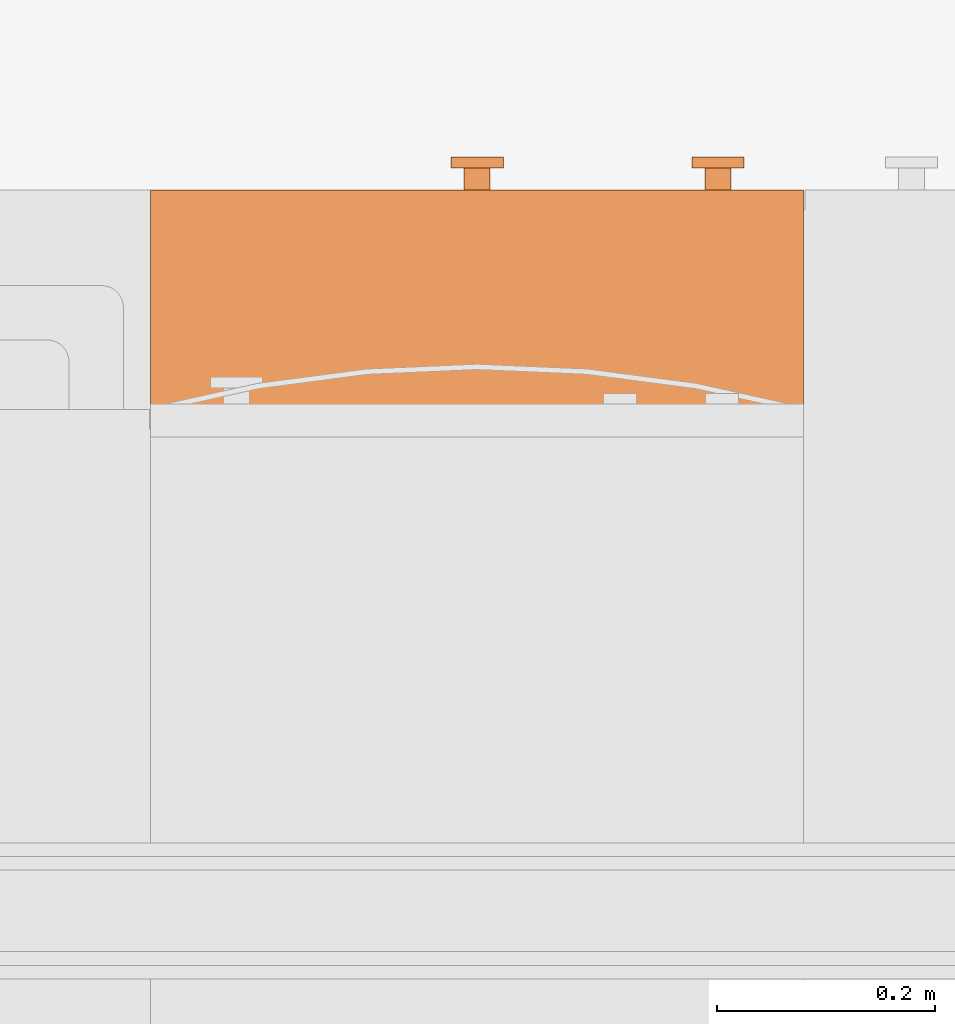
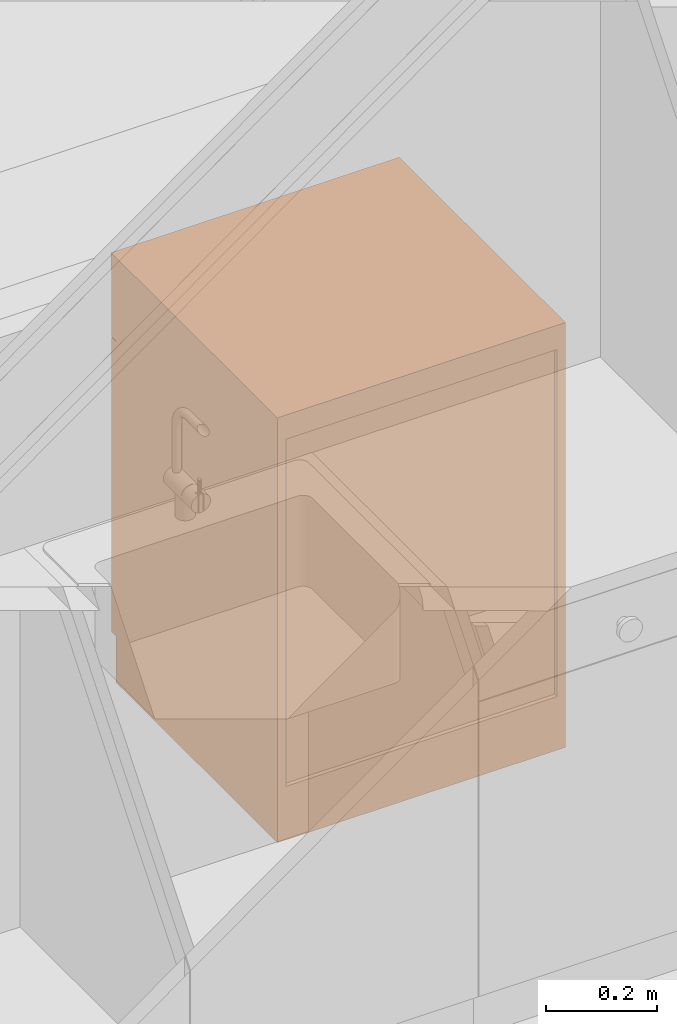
# One storey, part 150 of 165: 1 proxy.
"""IFC2X3 building model written with IfcOpenShell, lengths in millimetres."""

from ifc_helpers import new_model, entity, si_unit, converted_unit, derived_unit, money_unit, direction, frame, origin_with_axes, place, context, subcontext, project, spatial, faceted_brep, type_object, element, save


model = new_model("IFC2X3")

# Units and contexts
model_context = context("Model", 3, precision=0.01, world=origin_with_axes(), true_north=direction((0.0, 1.0)))
body_context = subcontext(model_context, "Body", "Model", "MODEL_VIEW")
ifc_project = project(units=[si_unit("LENGTHUNIT", "METRE", prefix="MILLI"), si_unit("AREAUNIT", "SQUARE_METRE"), si_unit("VOLUMEUNIT", "CUBIC_METRE"), converted_unit("PLANEANGLEUNIT", "DEGREE", entity("IfcPlaneAngleMeasure", 0.0174532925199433), si_unit("PLANEANGLEUNIT", "RADIAN"), dimensions=[0, 0, 0, 0, 0, 0, 0]), money_unit("EUR"), converted_unit("TIMEUNIT", "Year", entity("IfcTimeMeasure", 31556926.0), si_unit("TIMEUNIT", "SECOND"), dimensions=[0, 0, 1, 0, 0, 0, 0]), si_unit("MASSUNIT", "GRAM", prefix="KILO"), si_unit("THERMODYNAMICTEMPERATUREUNIT", "DEGREE_CELSIUS"), si_unit("LUMINOUSINTENSITYUNIT", "LUMEN"), si_unit("ENERGYUNIT", "JOULE", prefix="MEGA"), derived_unit("THERMALCONDUCTANCEUNIT", [(si_unit("POWERUNIT", "WATT"), 1), (si_unit("LENGTHUNIT", "METRE"), -1), (si_unit("THERMODYNAMICTEMPERATUREUNIT", "KELVIN"), -1)]), derived_unit("SPECIFICHEATCAPACITYUNIT", [(si_unit("ENERGYUNIT", "JOULE"), 1), (si_unit("MASSUNIT", "GRAM", prefix="KILO"), -1), (si_unit("THERMODYNAMICTEMPERATUREUNIT", "KELVIN"), -1)]), derived_unit("MASSDENSITYUNIT", [(si_unit("MASSUNIT", "GRAM", prefix="KILO"), 1), (si_unit("VOLUMEUNIT", "CUBIC_METRE"), -1)])], contexts=[model_context])

# Site, building, storey
site_placement = place(None, origin_with_axes())
site = spatial("IfcSite", under=ifc_project, at=site_placement, Name="Site", CompositionType="ELEMENT")
building_placement = place(site_placement, origin_with_axes())
building = spatial("IfcBuilding", under=site, at=building_placement, Name="Naam gebouw", CompositionType="ELEMENT")
storey_placement = place(building_placement, origin_with_axes())
storey = spatial("IfcBuildingStorey", under=building, at=storey_placement, Name="Begane grond", CompositionType="ELEMENT", Elevation=0.0)

# Proxy
building_element_proxy_type = type_object("IfcBuildingElementProxyType", Name="Onderkast recht 26", PredefinedType="NOTDEFINED")
proxy_placement = place(storey_placement, frame((2032.00057051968, 11432.52823100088, 0.0), z_axis=(0.0, 0.0, 1.0), x_axis=(-0.9999999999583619, 9.125581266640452e-06, 0.0)))
element("IfcBuildingElementProxy", 1, at=proxy_placement, inside=storey, type_object=building_element_proxy_type, Name="_Leeg", context=body_context, shape_type="Brep", body=[
    faceted_brep([(0.0, -600.0, 900.0), (0.0, -600.0, 935.0), (-600.0, -600.0, 935.0), (-600.0, -600.0, 900.0), (0.0, 0.0, 900.0), (0.0, 0.0, 935.0), (-600.0, 0.0, 935.0), (-600.0, 0.0, 900.0)], [[[0, 1, 2, 3]], [[4, 5, 1, 0]], [[1, 5, 6, 2]], [[3, 2, 6, 7]], [[0, 3, 7, 4]], [[7, 6, 5, 4]]]),
    faceted_brep([(-18.0, -582.0, 420.5), (-18.0, -582.0, 438.5), (-582.0, -582.0, 438.5), (-582.0, -582.0, 420.5), (-18.0, -18.0, 420.5), (-18.0, -18.0, 438.5), (-582.0, -18.0, 438.5), (-582.0, -18.0, 420.5)], [[[0, 1, 2, 3]], [[4, 5, 1, 0]], [[1, 5, 6, 2]], [[3, 2, 6, 7]], [[0, 3, 7, 4]], [[7, 6, 5, 4]]]),
    faceted_brep([(-18.0, -582.0, 741.0), (-18.0, -582.0, 759.0), (-582.0, -582.0, 759.0), (-582.0, -582.0, 741.0), (-18.0, -18.0, 741.0), (-18.0, -18.0, 759.0), (-582.0, -18.0, 759.0), (-582.0, -18.0, 741.0)], [[[0, 1, 2, 3]], [[4, 5, 1, 0]], [[1, 5, 6, 2]], [[3, 2, 6, 7]], [[0, 3, 7, 4]], [[7, 6, 5, 4]]]),
    faceted_brep([(-577.0, -582.0, 764.0), (-577.0, -18.00000000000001, 764.0), (-23.0, -18.00000000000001, 764.0), (-23.0, -582.0, 764.0), (-577.0, -582.0, 774.0), (-577.0, -18.00000000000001, 774.0), (-23.0, -18.00000000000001, 774.0), (-23.0, -582.0, 774.0)], [[[0, 1, 2, 3]], [[0, 4, 5, 1]], [[1, 5, 6, 2]], [[2, 6, 7, 3]], [[3, 7, 4, 0]], [[7, 6, 5, 4]]]),
    faceted_brep([(-43.0, -582.0, 774.0), (-43.0, -18.00000000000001, 774.0), (-23.0, -18.00000000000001, 774.0), (-23.0, -582.0, 774.0), (-43.0, -582.0, 877.0000000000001), (-43.0, -18.00000000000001, 877.0000000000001), (-23.0, -18.00000000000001, 877.0000000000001), (-23.0, -582.0, 877.0000000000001)], [[[0, 1, 2, 3]], [[0, 4, 5, 1]], [[1, 5, 6, 2]], [[2, 6, 7, 3]], [[3, 7, 4, 0]], [[7, 6, 5, 4]]]),
    faceted_brep([(-577.0, -582.0, 774.0), (-577.0, -18.00000000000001, 774.0), (-556.9999999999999, -18.00000000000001, 774.0), (-556.9999999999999, -582.0, 774.0), (-577.0, -582.0, 877.0000000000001), (-577.0, -18.00000000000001, 877.0000000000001), (-556.9999999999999, -18.00000000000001, 877.0000000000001), (-556.9999999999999, -582.0, 877.0000000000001)], [[[0, 1, 2, 3]], [[0, 4, 5, 1]], [[1, 5, 6, 2]], [[2, 6, 7, 3]], [[3, 7, 4, 0]], [[7, 6, 5, 4]]]),
    faceted_brep([(-556.9999999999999, -33.00000000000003, 774.0), (-556.9999999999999, -23.00000000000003, 774.0), (-43.0, -23.00000000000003, 774.0), (-43.0, -33.00000000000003, 774.0), (-556.9999999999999, -33.00000000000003, 877.0000000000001), (-556.9999999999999, -23.00000000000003, 877.0000000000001), (-43.0, -23.00000000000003, 877.0000000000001), (-43.0, -33.00000000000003, 877.0000000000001)], [[[0, 1, 2, 3]], [[0, 4, 5, 1]], [[1, 5, 6, 2]], [[2, 6, 7, 3]], [[3, 7, 4, 0]], [[7, 6, 5, 4]]]),
    faceted_brep([(-533.1641574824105, -600.0, 668.2626863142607), (-533.346464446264, -600.0, 670.3464644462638), (-533.1641574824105, -600.0, 672.4302425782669), (-532.6227758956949, -600.0, 674.4507061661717), (-531.7387692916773, -600.0, 676.3464644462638), (-530.5389977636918, -600.0, 678.0599157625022), (-529.0599157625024, -600.0, 679.5389977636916), (-527.346464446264, -600.0, 680.738769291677), (-525.4507061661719, -600.0, 681.6227758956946), (-523.4302425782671, -600.0, 682.1641574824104), (-521.346464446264, -600.0, 682.3464644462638), (-519.2626863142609, -600.0, 682.1641574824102), (-517.242222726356, -600.0, 681.6227758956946), (-515.346464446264, -600.0, 680.738769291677), (-513.6330131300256, -600.0, 679.5389977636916), (-512.1539311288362, -600.0, 678.0599157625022), (-510.9541596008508, -600.0, 676.3464644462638), (-510.0701529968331, -600.0, 674.4507061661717), (-509.5287714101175, -600.0, 672.4302425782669), (-509.346464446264, -600.0, 670.3464644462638), (-509.5287714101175, -600.0, 668.2626863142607), (-510.0701529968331, -600.0, 666.2422227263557), (-510.9541596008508, -600.0, 664.3464644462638), (-512.1539311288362, -600.0, 662.6330131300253), (-513.6330131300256, -600.0, 661.153931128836), (-515.346464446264, -600.0, 659.9541596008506), (-517.242222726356, -600.0, 659.0701529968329), (-519.2626863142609, -600.0, 658.5287714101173), (-521.346464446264, -600.0, 658.3464644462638), (-523.4302425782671, -600.0, 658.5287714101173), (-525.4507061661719, -600.0, 659.0701529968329), (-527.346464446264, -600.0, 659.9541596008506), (-529.0599157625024, -600.0, 661.153931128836), (-530.5389977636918, -600.0, 662.6330131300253), (-531.7387692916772, -600.0, 664.3464644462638), (-532.6227758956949, -600.0, 666.2422227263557), (-533.1641574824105, -620.0, 668.2626863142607), (-533.346464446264, -620.0, 670.3464644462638), (-533.1641574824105, -620.0, 672.4302425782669), (-532.6227758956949, -620.0, 674.4507061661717), (-531.7387692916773, -620.0, 676.3464644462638), (-530.5389977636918, -620.0, 678.0599157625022), (-529.0599157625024, -620.0, 679.5389977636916), (-527.346464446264, -620.0, 680.738769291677), (-525.4507061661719, -620.0, 681.6227758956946), (-523.4302425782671, -620.0, 682.1641574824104), (-521.346464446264, -620.0, 682.3464644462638), (-519.2626863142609, -620.0, 682.1641574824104), (-517.242222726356, -620.0, 681.6227758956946), (-515.346464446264, -620.0, 680.738769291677), (-513.6330131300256, -620.0, 679.5389977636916), (-512.1539311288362, -620.0, 678.0599157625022), (-510.9541596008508, -620.0, 676.3464644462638), (-510.0701529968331, -620.0, 674.4507061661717), (-509.5287714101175, -620.0, 672.4302425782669), (-509.346464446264, -620.0, 670.3464644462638), (-509.5287714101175, -620.0, 668.2626863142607), (-510.0701529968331, -620.0, 666.2422227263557), (-510.9541596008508, -620.0, 664.3464644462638), (-512.1539311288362, -620.0, 662.6330131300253), (-513.6330131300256, -620.0, 661.153931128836), (-515.346464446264, -620.0, 659.9541596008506), (-517.242222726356, -620.0, 659.0701529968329), (-519.2626863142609, -620.0, 658.5287714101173), (-521.346464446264, -620.0, 658.3464644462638), (-523.4302425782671, -620.0, 658.5287714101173), (-525.4507061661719, -620.0, 659.0701529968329), (-527.346464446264, -620.0, 659.9541596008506), (-529.0599157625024, -620.0, 661.153931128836), (-530.5389977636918, -620.0, 662.6330131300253), (-531.7387692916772, -620.0, 664.3464644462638), (-532.6227758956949, -620.0, 666.2422227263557)], [[[0, 1, 2, 3, 4, 5, 6, 7, 8, 9, 10, 11, 12, 13, 14, 15, 16, 17, 18, 19, 20, 21, 22, 23, 24, 25, 26, 27, 28, 29, 30, 31, 32, 33, 34, 35]], [[0, 36, 37, 1]], [[1, 37, 38, 2]], [[2, 38, 39, 3]], [[3, 39, 40, 4]], [[4, 40, 41, 5]], [[5, 41, 42, 6]], [[6, 42, 43, 7]], [[7, 43, 44, 8]], [[8, 44, 45, 9]], [[9, 45, 46, 10]], [[10, 46, 47, 11]], [[11, 47, 48, 12]], [[12, 48, 49, 13]], [[13, 49, 50, 14]], [[14, 50, 51, 15]], [[15, 51, 52, 16]], [[16, 52, 53, 17]], [[17, 53, 54, 18]], [[18, 54, 55, 19]], [[19, 55, 56, 20]], [[20, 56, 57, 21]], [[21, 57, 58, 22]], [[22, 58, 59, 23]], [[23, 59, 60, 24]], [[24, 60, 61, 25]], [[25, 61, 62, 26]], [[26, 62, 63, 27]], [[27, 63, 64, 28]], [[28, 64, 65, 29]], [[29, 65, 66, 30]], [[30, 66, 67, 31]], [[31, 67, 68, 32]], [[32, 68, 69, 33]], [[33, 69, 70, 34]], [[34, 70, 71, 35]], [[35, 71, 36, 0]], [[36, 71, 70, 69, 68, 67, 66, 65, 64, 63, 62, 61, 60, 59, 58, 57, 56, 55, 54, 53, 52, 51, 50, 49, 48, 47, 46, 45, 44, 43, 42, 41, 40, 39, 38, 37]]]),
    faceted_brep([(-544.9818505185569, -620.0, 666.1789081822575), (-545.346464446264, -620.0, 670.3464644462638), (-544.9818505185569, -620.0, 674.5140207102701), (-543.8990873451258, -620.0, 678.5549478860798), (-542.1310741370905, -620.0, 682.3464644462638), (-539.7315310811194, -620.0, 685.7733670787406), (-536.7733670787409, -620.0, 688.7315310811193), (-533.346464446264, -620.0, 691.1310741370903), (-529.5549478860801, -620.0, 692.8990873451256), (-525.5140207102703, -620.0, 693.9818505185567), (-521.346464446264, -620.0, 694.3464644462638), (-517.1789081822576, -620.0, 693.9818505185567), (-513.137981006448, -620.0, 692.8990873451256), (-509.346464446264, -620.0, 691.1310741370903), (-505.919561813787, -620.0, 688.7315310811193), (-502.9613978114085, -620.0, 685.7733670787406), (-500.5618547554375, -620.0, 682.3464644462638), (-498.7938415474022, -620.0, 678.5549478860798), (-497.711078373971, -620.0, 674.5140207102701), (-497.346464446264, -620.0, 670.3464644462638), (-497.711078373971, -620.0, 666.1789081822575), (-498.7938415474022, -620.0, 662.1379810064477), (-500.5618547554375, -620.0, 658.3464644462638), (-502.9613978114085, -620.0, 654.9195618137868), (-505.919561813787, -620.0, 651.9613978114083), (-509.346464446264, -620.0, 649.5618547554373), (-513.137981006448, -620.0, 647.793841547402), (-517.1789081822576, -620.0, 646.7110783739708), (-521.346464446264, -620.0, 646.3464644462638), (-525.5140207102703, -620.0, 646.7110783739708), (-529.5549478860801, -620.0, 647.793841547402), (-533.346464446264, -620.0, 649.5618547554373), (-536.7733670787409, -620.0, 651.9613978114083), (-539.7315310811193, -620.0, 654.9195618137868), (-542.1310741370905, -620.0, 658.3464644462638), (-543.8990873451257, -620.0, 662.1379810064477), (-544.9818505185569, -630.0, 666.1789081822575), (-545.346464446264, -630.0, 670.3464644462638), (-544.9818505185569, -630.0, 674.5140207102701), (-543.8990873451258, -630.0, 678.5549478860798), (-542.1310741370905, -630.0, 682.3464644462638), (-539.7315310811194, -630.0, 685.7733670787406), (-536.7733670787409, -630.0, 688.7315310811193), (-533.346464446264, -630.0, 691.1310741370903), (-529.5549478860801, -630.0, 692.8990873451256), (-525.5140207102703, -630.0, 693.9818505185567), (-521.346464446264, -630.0, 694.3464644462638), (-517.1789081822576, -630.0, 693.9818505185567), (-513.137981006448, -630.0, 692.8990873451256), (-509.346464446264, -630.0, 691.1310741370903), (-505.919561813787, -630.0, 688.7315310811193), (-502.9613978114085, -630.0, 685.7733670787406), (-500.5618547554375, -630.0, 682.3464644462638), (-498.7938415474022, -630.0, 678.5549478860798), (-497.711078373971, -630.0, 674.5140207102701), (-497.346464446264, -630.0, 670.3464644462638), (-497.711078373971, -630.0, 666.1789081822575), (-498.7938415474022, -630.0, 662.1379810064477), (-500.5618547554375, -630.0, 658.3464644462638), (-502.9613978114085, -630.0, 654.9195618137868), (-505.919561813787, -630.0, 651.9613978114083), (-509.346464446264, -630.0, 649.5618547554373), (-513.137981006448, -630.0, 647.793841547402), (-517.1789081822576, -630.0, 646.7110783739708), (-521.346464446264, -630.0, 646.3464644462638), (-525.5140207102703, -630.0, 646.7110783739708), (-529.5549478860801, -630.0, 647.793841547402), (-533.346464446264, -630.0, 649.5618547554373), (-536.7733670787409, -630.0, 651.9613978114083), (-539.7315310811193, -630.0, 654.9195618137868), (-542.1310741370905, -630.0, 658.3464644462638), (-543.8990873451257, -630.0, 662.1379810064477)], [[[0, 1, 2, 3, 4, 5, 6, 7, 8, 9, 10, 11, 12, 13, 14, 15, 16, 17, 18, 19, 20, 21, 22, 23, 24, 25, 26, 27, 28, 29, 30, 31, 32, 33, 34, 35]], [[0, 36, 37, 1]], [[1, 37, 38, 2]], [[2, 38, 39, 3]], [[3, 39, 40, 4]], [[4, 40, 41, 5]], [[5, 41, 42, 6]], [[6, 42, 43, 7]], [[7, 43, 44, 8]], [[8, 44, 45, 9]], [[9, 45, 46, 10]], [[10, 46, 47, 11]], [[11, 47, 48, 12]], [[12, 48, 49, 13]], [[13, 49, 50, 14]], [[14, 50, 51, 15]], [[15, 51, 52, 16]], [[16, 52, 53, 17]], [[17, 53, 54, 18]], [[18, 54, 55, 19]], [[19, 55, 56, 20]], [[20, 56, 57, 21]], [[21, 57, 58, 22]], [[22, 58, 59, 23]], [[23, 59, 60, 24]], [[24, 60, 61, 25]], [[25, 61, 62, 26]], [[26, 62, 63, 27]], [[27, 63, 64, 28]], [[28, 64, 65, 29]], [[29, 65, 66, 30]], [[30, 66, 67, 31]], [[31, 67, 68, 32]], [[32, 68, 69, 33]], [[33, 69, 70, 34]], [[34, 70, 71, 35]], [[35, 71, 36, 0]], [[36, 71, 70, 69, 68, 67, 66, 65, 64, 63, 62, 61, 60, 59, 58, 57, 56, 55, 54, 53, 52, 51, 50, 49, 48, 47, 46, 45, 44, 43, 42, 41, 40, 39, 38, 37]]]),
    faceted_brep([(-1.0, -582.0, 101.0), (-1.0, -600.0, 101.0), (-599.0, -600.0, 101.0), (-599.0, -582.0, 101.0), (-1.0, -582.0, 749.0), (-1.0, -599.9999999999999, 749.0), (-599.0, -599.9999999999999, 749.0), (-599.0, -582.0, 749.0)], [[[0, 1, 2, 3]], [[4, 5, 1, 0]], [[1, 5, 6, 2]], [[3, 2, 6, 7]], [[0, 3, 7, 4]], [[7, 6, 5, 4]]]),
    faceted_brep([(-311.8176930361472, -600.0, 817.916221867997), (-312.0000000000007, -600.0, 820.0000000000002), (-311.8176930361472, -600.0, 822.0837781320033), (-311.2763114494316, -600.0, 824.1042417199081), (-310.3923048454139, -600.0, 826.0000000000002), (-309.1925333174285, -600.0, 827.7134513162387), (-307.7134513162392, -600.0, 829.1925333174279), (-306.0000000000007, -600.0, 830.3923048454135), (-304.1042417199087, -600.0, 831.2763114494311), (-302.0837781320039, -600.0, 831.8176930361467), (-300.0000000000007, -600.0, 832.0000000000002), (-297.9162218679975, -600.0, 831.8176930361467), (-295.8957582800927, -600.0, 831.2763114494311), (-294.0000000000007, -600.0, 830.3923048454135), (-292.2865486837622, -600.0, 829.1925333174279), (-290.807466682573, -600.0, 827.7134513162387), (-289.6076951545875, -600.0, 826.0000000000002), (-288.7236885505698, -600.0, 824.1042417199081), (-288.1823069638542, -600.0, 822.0837781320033), (-288.0000000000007, -600.0, 820.0000000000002), (-288.1823069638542, -600.0, 817.916221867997), (-288.7236885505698, -600.0, 815.8957582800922), (-289.6076951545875, -600.0, 814.0000000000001), (-290.807466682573, -600.0, 812.2865486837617), (-292.2865486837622, -600.0, 810.8074666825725), (-294.0000000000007, -600.0, 809.607695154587), (-295.8957582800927, -600.0, 808.7236885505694), (-297.9162218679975, -600.0, 808.1823069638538), (-300.0000000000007, -600.0, 808.0000000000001), (-302.0837781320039, -600.0, 808.1823069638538), (-304.1042417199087, -600.0, 808.7236885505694), (-306.0000000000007, -600.0, 809.607695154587), (-307.7134513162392, -600.0, 810.8074666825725), (-309.1925333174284, -600.0, 812.2865486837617), (-310.3923048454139, -600.0, 814.0000000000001), (-311.2763114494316, -600.0, 815.8957582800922), (-311.8176930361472, -620.0, 817.916221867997), (-312.0000000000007, -620.0, 820.0000000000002), (-311.8176930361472, -620.0, 822.0837781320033), (-311.2763114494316, -620.0, 824.1042417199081), (-310.3923048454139, -620.0, 826.0000000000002), (-309.1925333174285, -620.0, 827.7134513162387), (-307.7134513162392, -620.0, 829.1925333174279), (-306.0000000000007, -620.0, 830.3923048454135), (-304.1042417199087, -620.0, 831.2763114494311), (-302.0837781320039, -620.0, 831.8176930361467), (-300.0000000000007, -620.0, 832.0000000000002), (-297.9162218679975, -620.0, 831.8176930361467), (-295.8957582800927, -620.0, 831.2763114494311), (-294.0000000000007, -620.0, 830.3923048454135), (-292.2865486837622, -620.0, 829.1925333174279), (-290.807466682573, -620.0, 827.7134513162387), (-289.6076951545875, -620.0, 826.0000000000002), (-288.7236885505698, -620.0, 824.1042417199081), (-288.1823069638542, -620.0, 822.0837781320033), (-288.0000000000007, -620.0, 820.0000000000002), (-288.1823069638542, -620.0, 817.916221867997), (-288.7236885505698, -620.0, 815.8957582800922), (-289.6076951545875, -620.0, 814.0000000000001), (-290.807466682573, -620.0, 812.2865486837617), (-292.2865486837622, -620.0, 810.8074666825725), (-294.0000000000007, -620.0, 809.607695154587), (-295.8957582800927, -620.0, 808.7236885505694), (-297.9162218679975, -620.0, 808.1823069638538), (-300.0000000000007, -620.0, 808.0000000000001), (-302.0837781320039, -620.0, 808.1823069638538), (-304.1042417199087, -620.0, 808.7236885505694), (-306.0000000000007, -620.0, 809.607695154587), (-307.7134513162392, -620.0, 810.8074666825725), (-309.1925333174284, -620.0, 812.2865486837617), (-310.3923048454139, -620.0, 814.0000000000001), (-311.2763114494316, -620.0, 815.8957582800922)], [[[0, 1, 2, 3, 4, 5, 6, 7, 8, 9, 10, 11, 12, 13, 14, 15, 16, 17, 18, 19, 20, 21, 22, 23, 24, 25, 26, 27, 28, 29, 30, 31, 32, 33, 34, 35]], [[0, 36, 37, 1]], [[1, 37, 38, 2]], [[2, 38, 39, 3]], [[3, 39, 40, 4]], [[4, 40, 41, 5]], [[5, 41, 42, 6]], [[6, 42, 43, 7]], [[7, 43, 44, 8]], [[8, 44, 45, 9]], [[9, 45, 46, 10]], [[10, 46, 47, 11]], [[11, 47, 48, 12]], [[12, 48, 49, 13]], [[13, 49, 50, 14]], [[14, 50, 51, 15]], [[15, 51, 52, 16]], [[16, 52, 53, 17]], [[17, 53, 54, 18]], [[18, 54, 55, 19]], [[19, 55, 56, 20]], [[20, 56, 57, 21]], [[21, 57, 58, 22]], [[22, 58, 59, 23]], [[23, 59, 60, 24]], [[24, 60, 61, 25]], [[25, 61, 62, 26]], [[26, 62, 63, 27]], [[27, 63, 64, 28]], [[28, 64, 65, 29]], [[29, 65, 66, 30]], [[30, 66, 67, 31]], [[31, 67, 68, 32]], [[32, 68, 69, 33]], [[33, 69, 70, 34]], [[34, 70, 71, 35]], [[35, 71, 36, 0]], [[36, 71, 70, 69, 68, 67, 66, 65, 64, 63, 62, 61, 60, 59, 58, 57, 56, 55, 54, 53, 52, 51, 50, 49, 48, 47, 46, 45, 44, 43, 42, 41, 40, 39, 38, 37]]]),
    faceted_brep([(-323.6353860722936, -620.0, 815.8324437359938), (-324.0000000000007, -620.0, 820.0000000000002), (-323.6353860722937, -620.0, 824.1675562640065), (-322.5526228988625, -620.0, 828.2084834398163), (-320.7846096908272, -620.0, 832.0000000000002), (-318.3850666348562, -620.0, 835.4269026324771), (-315.4269026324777, -620.0, 838.3850666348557), (-312.0000000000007, -620.0, 840.7846096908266), (-308.2084834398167, -620.0, 842.5526228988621), (-304.167556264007, -620.0, 843.6353860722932), (-300.0000000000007, -620.0, 844.0000000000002), (-295.8324437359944, -620.0, 843.6353860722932), (-291.7915165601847, -620.0, 842.5526228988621), (-288.0000000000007, -620.0, 840.7846096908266), (-284.5730973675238, -620.0, 838.3850666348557), (-281.6149333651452, -620.0, 835.4269026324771), (-279.2153903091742, -620.0, 832.0000000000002), (-277.4473771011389, -620.0, 828.2084834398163), (-276.3646139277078, -620.0, 824.1675562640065), (-276.0000000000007, -620.0, 820.0000000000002), (-276.3646139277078, -620.0, 815.8324437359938), (-277.4473771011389, -620.0, 811.7915165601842), (-279.2153903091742, -620.0, 808.0000000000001), (-281.6149333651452, -620.0, 804.5730973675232), (-284.5730973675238, -620.0, 801.6149333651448), (-288.0000000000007, -620.0, 799.2153903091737), (-291.7915165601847, -620.0, 797.4473771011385), (-295.8324437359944, -620.0, 796.3646139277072), (-300.0000000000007, -620.0, 796.0000000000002), (-304.167556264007, -620.0, 796.3646139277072), (-308.2084834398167, -620.0, 797.4473771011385), (-312.0000000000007, -620.0, 799.2153903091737), (-315.4269026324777, -620.0, 801.6149333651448), (-318.3850666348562, -620.0, 804.5730973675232), (-320.7846096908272, -620.0, 808.0000000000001), (-322.5526228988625, -620.0, 811.7915165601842), (-323.6353860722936, -630.0, 815.8324437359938), (-324.0000000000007, -630.0, 820.0000000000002), (-323.6353860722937, -630.0, 824.1675562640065), (-322.5526228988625, -630.0, 828.2084834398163), (-320.7846096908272, -630.0, 832.0000000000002), (-318.3850666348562, -630.0, 835.4269026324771), (-315.4269026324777, -630.0, 838.3850666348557), (-312.0000000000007, -630.0, 840.7846096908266), (-308.2084834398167, -630.0, 842.5526228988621), (-304.167556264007, -630.0, 843.6353860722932), (-300.0000000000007, -630.0, 844.0000000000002), (-295.8324437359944, -630.0, 843.6353860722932), (-291.7915165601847, -630.0, 842.5526228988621), (-288.0000000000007, -630.0, 840.7846096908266), (-284.5730973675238, -630.0, 838.3850666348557), (-281.6149333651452, -630.0, 835.4269026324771), (-279.2153903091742, -630.0, 832.0000000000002), (-277.4473771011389, -630.0, 828.2084834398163), (-276.3646139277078, -630.0, 824.1675562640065), (-276.0000000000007, -630.0, 820.0000000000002), (-276.3646139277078, -630.0, 815.8324437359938), (-277.4473771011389, -630.0, 811.7915165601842), (-279.2153903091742, -630.0, 808.0000000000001), (-281.6149333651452, -630.0, 804.5730973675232), (-284.5730973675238, -630.0, 801.6149333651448), (-288.0000000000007, -630.0, 799.2153903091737), (-291.7915165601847, -630.0, 797.4473771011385), (-295.8324437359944, -630.0, 796.3646139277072), (-300.0000000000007, -630.0, 796.0000000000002), (-304.167556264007, -630.0, 796.3646139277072), (-308.2084834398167, -630.0, 797.4473771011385), (-312.0000000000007, -630.0, 799.2153903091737), (-315.4269026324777, -630.0, 801.6149333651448), (-318.3850666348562, -630.0, 804.5730973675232), (-320.7846096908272, -630.0, 808.0000000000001), (-322.5526228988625, -630.0, 811.7915165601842)], [[[0, 1, 2, 3, 4, 5, 6, 7, 8, 9, 10, 11, 12, 13, 14, 15, 16, 17, 18, 19, 20, 21, 22, 23, 24, 25, 26, 27, 28, 29, 30, 31, 32, 33, 34, 35]], [[0, 36, 37, 1]], [[1, 37, 38, 2]], [[2, 38, 39, 3]], [[3, 39, 40, 4]], [[4, 40, 41, 5]], [[5, 41, 42, 6]], [[6, 42, 43, 7]], [[7, 43, 44, 8]], [[8, 44, 45, 9]], [[9, 45, 46, 10]], [[10, 46, 47, 11]], [[11, 47, 48, 12]], [[12, 48, 49, 13]], [[13, 49, 50, 14]], [[14, 50, 51, 15]], [[15, 51, 52, 16]], [[16, 52, 53, 17]], [[17, 53, 54, 18]], [[18, 54, 55, 19]], [[19, 55, 56, 20]], [[20, 56, 57, 21]], [[21, 57, 58, 22]], [[22, 58, 59, 23]], [[23, 59, 60, 24]], [[24, 60, 61, 25]], [[25, 61, 62, 26]], [[26, 62, 63, 27]], [[27, 63, 64, 28]], [[28, 64, 65, 29]], [[29, 65, 66, 30]], [[30, 66, 67, 31]], [[31, 67, 68, 32]], [[32, 68, 69, 33]], [[33, 69, 70, 34]], [[34, 70, 71, 35]], [[35, 71, 36, 0]], [[36, 71, 70, 69, 68, 67, 66, 65, 64, 63, 62, 61, 60, 59, 58, 57, 56, 55, 54, 53, 52, 51, 50, 49, 48, 47, 46, 45, 44, 43, 42, 41, 40, 39, 38, 37]]]),
    faceted_brep([(-1.0, -582.0, 751.0), (-1.0, -600.0, 751.0), (-599.0, -600.0, 751.0), (-599.0, -582.0, 751.0), (-1.0, -582.0, 899.0), (-1.0, -600.0, 899.0), (-599.0, -600.0, 899.0), (-599.0, -582.0, 899.0)], [[[0, 1, 2, 3]], [[4, 5, 1, 0]], [[1, 5, 6, 2]], [[3, 2, 6, 7]], [[0, 3, 7, 4]], [[7, 6, 5, 4]]]),
    faceted_brep([(-18.0, -582.0, 100.0), (-18.0, -582.0, 118.0), (-582.0, -582.0, 118.0), (-582.0, -582.0, 100.0), (-18.0, 0.0, 100.0), (-18.0, 0.0, 118.0), (-582.0, 0.0, 118.0), (-582.0, 0.0, 100.0)], [[[0, 1, 2, 3]], [[4, 5, 1, 0]], [[1, 5, 6, 2]], [[3, 2, 6, 7]], [[0, 3, 7, 4]], [[7, 6, 5, 4]]]),
    faceted_brep([(-18.0, -582.0, 882.0), (-582.0, -582.0, 882.0), (-582.0, -522.0, 882.0), (-18.0, -522.0, 882.0), (-18.0, -582.0, 900.0), (-582.0, -582.0, 900.0), (-582.0, -522.0, 900.0), (-18.0, -522.0, 900.0)], [[[0, 1, 2, 3]], [[4, 5, 1, 0]], [[1, 5, 6, 2]], [[3, 2, 6, 7]], [[0, 3, 7, 4]], [[7, 6, 5, 4]]]),
    faceted_brep([(-582.0, 0.0, 882.0), (-18.0, 0.0, 882.0), (-18.0, -60.0, 882.0), (-582.0, -60.0, 882.0), (-582.0, 0.0, 900.0), (-18.0, 0.0, 900.0), (-18.0, -60.0, 900.0), (-582.0, -60.0, 900.0)], [[[0, 1, 2, 3]], [[4, 5, 1, 0]], [[1, 5, 6, 2]], [[3, 2, 6, 7]], [[0, 3, 7, 4]], [[7, 6, 5, 4]]]),
    faceted_brep([(0.0, 0.0, 100.0), (0.0, 0.0, 900.0), (0.0, -582.0, 900.0), (0.0, -582.0, 100.0), (-18.0, 0.0, 100.0), (-18.0, 0.0, 900.0), (-18.0, -582.0, 900.0), (-18.0, -582.0, 100.0)], [[[0, 1, 2, 3]], [[4, 5, 1, 0]], [[1, 5, 6, 2]], [[3, 2, 6, 7]], [[0, 3, 7, 4]], [[7, 6, 5, 4]]]),
    faceted_brep([(-600.0, -582.0, 100.0), (-600.0, -582.0, 900.0), (-600.0, 0.0, 900.0), (-600.0, 0.0, 100.0), (-582.0, -582.0, 100.0), (-582.0, -582.0, 900.0), (-582.0, 0.0, 900.0), (-582.0, 0.0, 100.0)], [[[0, 1, 2, 3]], [[4, 5, 1, 0]], [[1, 5, 6, 2]], [[3, 2, 6, 7]], [[0, 3, 7, 4]], [[7, 6, 5, 4]]]),
    faceted_brep([(-582.0, -9.0, 118.0), (-582.0, -9.0, 882.0), (-18.00000000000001, -9.0, 882.0), (-18.00000000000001, -9.0, 118.0), (-582.0, -18.0, 118.0), (-582.0, -18.0, 882.0), (-18.00000000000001, -18.0, 882.0), (-18.00000000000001, -18.0, 118.0)], [[[0, 1, 2, 3]], [[4, 5, 1, 0]], [[1, 5, 6, 2]], [[3, 2, 6, 7]], [[0, 3, 7, 4]], [[7, 6, 5, 4]]]),
    faceted_brep([(0.0, -582.0, 0.0), (0.0, -582.0, 100.0), (-600.0, -582.0, 100.0), (-600.0, -582.0, 0.0), (0.0, 0.0, 0.0), (0.0, 0.0, 100.0), (-600.0, 0.0, 100.0), (-600.0, 0.0, 0.0)], [[[0, 1, 2, 3]], [[4, 5, 1, 0]], [[1, 5, 6, 2]], [[3, 2, 6, 7]], [[0, 3, 7, 4]], [[7, 6, 5, 4]]]),
])

save(model, "model.ifc")
